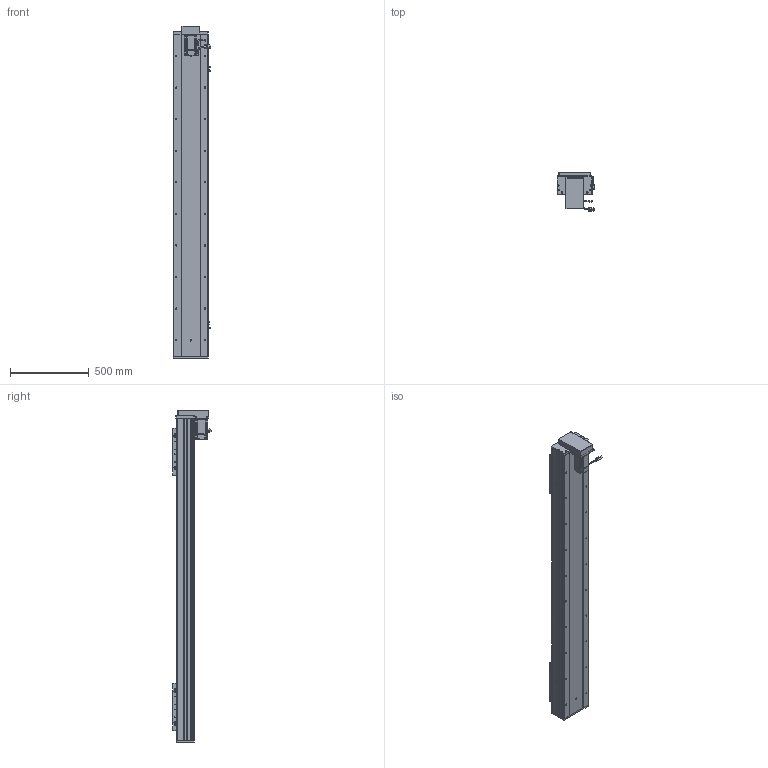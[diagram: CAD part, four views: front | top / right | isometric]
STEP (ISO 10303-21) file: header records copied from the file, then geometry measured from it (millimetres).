
FILE_DESCRIPTION (( 'STEP AP203' ), '1' );
FILE_NAME ('RY220F-L2525-800-BK-邧嶺.SLDASM_1600.step', '2022-08-06T08:08:19', ( '' ), ( '' ), 'SwSTEP 2.0', 'SolidWorks 2016', '' );
FILE_SCHEMA (( 'CONFIG_CONTROL_DESIGN' ));
Length unit declared in the file: millimetre
Products named in the file (15): RY220狟殏萇儂假蚾啣; RY220F-滅鳥奻裔; RY220F-672覜茼んえ; RY220F-L2525-800-BK-邧嶺.SLDASM_1600; RY220F-祥凄詩湍-蛌殏-800_1600; 滅袉蝶18-24; RY220F-蛌殏奻裔啣-800_1600; RY220F-詩湍揤踡輸; RY220F綴裔啣; RY220F臏賑釱25-32佪裝; 覜茼ん672; 怢湛750W_ECMA-CX0807ES; 侐源滅袉蝶; RY220狟殏萇儂欶; RY220F蛌殏菁釱-800-邧嶺_1600
Assembly tree (24 placements, depth 2):
  RY220F-L2525-800-BK-邧嶺.SLDASM_1600
    RY220F蛌殏菁釱-800-邧嶺_1600
    RY220F-蛌殏奻裔啣-800_1600  x2
    怢湛750W_ECMA-CX0807ES
    RY220F臏賑釱25-32佪裝  x2
    RY220F-滅鳥奻裔  x2
    滅袉蝶18-24  x3
    RY220F綴裔啣
    RY220F-祥凄詩湍-蛌殏-800_1600
    RY220F-詩湍揤踡輸  x2
    覜茼ん672  x3
    RY220F-672覜茼んえ  x2
    侐源滅袉蝶  x2
    RY220狟殏萇儂假蚾啣
    RY220狟殏萇儂欶
Bounding box: 237.27 x 247.24 x 2103 mm (x, y, z)
Volume: 18558741.7 mm3; surface area: 4870637.1 mm2
Topology: 25 solids, 25 shells, 2863 faces, 7766 edges, 4781 vertices
Faces by surface type: cylinder 1282, plane 1062, cone 448, bspline 45, sphere 16, torus 10
Entity records: 71185 total; most frequent: CARTESIAN_POINT 19071, ORIENTED_EDGE 10506, DIRECTION 10289, EDGE_CURVE 5253, AXIS2_PLACEMENT_3D 3666, VERTEX_POINT 3397, VECTOR 2957, LINE 2957
